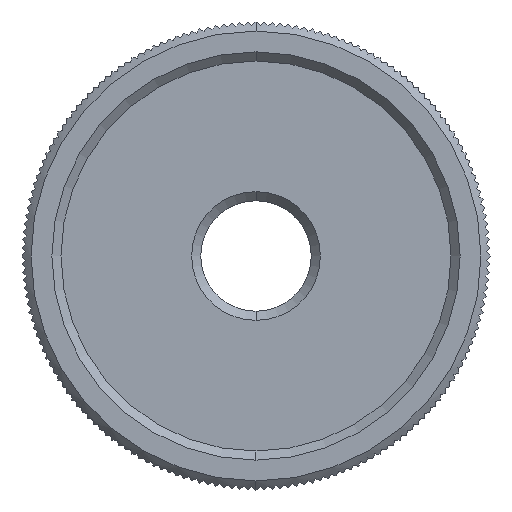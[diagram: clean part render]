
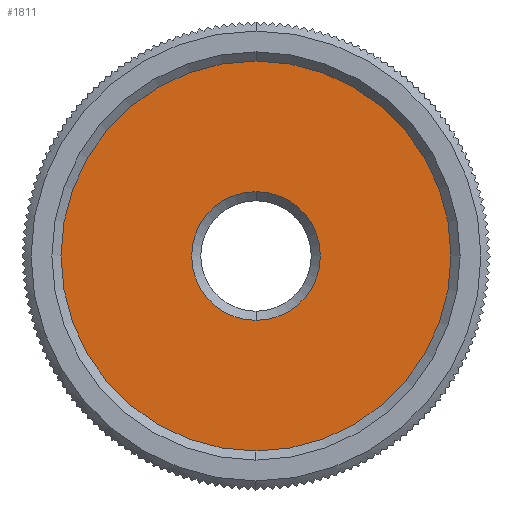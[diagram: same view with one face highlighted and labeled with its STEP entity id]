
A CAD part, left-side view. The second image highlights one B-rep face of the part: STEP entity #1811.
In plain terms, the highlighted planar face has unit normal (-1, 0, 0).
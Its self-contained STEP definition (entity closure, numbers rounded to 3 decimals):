
#28 = VERTEX_POINT ( 'NONE', #2038 ) ;
#29 = EDGE_CURVE ( 'NONE', #28, #30, #2032, .T. ) ;
#30 = VERTEX_POINT ( 'NONE', #2027 ) ;
#1811 = ADVANCED_FACE ( 'NONE', ( #4696, #4695 ), #4694, .T. ) ;
#1812 = EDGE_LOOP ( 'NONE', ( #1813, #1814 ) ) ;
#1813 = ORIENTED_EDGE ( 'NONE', *, *, #10948, .T. ) ;
#1814 = ORIENTED_EDGE ( 'NONE', *, *, #1815, .T. ) ;
#1815 = EDGE_CURVE ( 'NONE', #10561, #10942, #4691, .T. ) ;
#1816 = EDGE_LOOP ( 'NONE', ( #1817, #1871 ) ) ;
#1817 = ORIENTED_EDGE ( 'NONE', *, *, #1818, .T. ) ;
#1818 = EDGE_CURVE ( 'NONE', #30, #28, #4749, .T. ) ;
#1871 = ORIENTED_EDGE ( 'NONE', *, *, #29, .T. ) ;
#2027 = CARTESIAN_POINT ( 'NONE',  ( -6., 0., 15. ) ) ;
#2028 = DIRECTION ( 'NONE',  ( 0., 0., 1. ) ) ;
#2029 = DIRECTION ( 'NONE',  ( -1., 0., 0. ) ) ;
#2030 = CARTESIAN_POINT ( 'NONE',  ( -6., 0., 0. ) ) ;
#2031 = AXIS2_PLACEMENT_3D ( 'NONE', #2030, #2029, #2028 ) ;
#2032 = CIRCLE ( 'NONE', #2031, 15. ) ;
#2038 = CARTESIAN_POINT ( 'NONE',  ( -6., 0., -15. ) ) ;
#4684 = CARTESIAN_POINT ( 'NONE',  ( -6., 0., 0. ) ) ;
#4685 = DIRECTION ( 'NONE',  ( 0., 0., 1. ) ) ;
#4686 = DIRECTION ( 'NONE',  ( 1., 0., 0. ) ) ;
#4687 = CARTESIAN_POINT ( 'NONE',  ( -6., 0., 0. ) ) ;
#4688 = AXIS2_PLACEMENT_3D ( 'NONE', #4687, #4686, #4685 ) ;
#4689 = DIRECTION ( 'NONE',  ( 0., 0., 1. ) ) ;
#4690 = DIRECTION ( 'NONE',  ( -1., 0., 0. ) ) ;
#4691 = CIRCLE ( 'NONE', #4688, 4.95 ) ;
#4692 = CARTESIAN_POINT ( 'NONE',  ( -6., 0., 0. ) ) ;
#4693 = AXIS2_PLACEMENT_3D ( 'NONE', #4692, #4690, #4689 ) ;
#4694 = PLANE ( 'NONE',  #4693 ) ;
#4695 = FACE_OUTER_BOUND ( 'NONE', #1816, .T. ) ;
#4696 = FACE_BOUND ( 'NONE', #1812, .T. ) ;
#4746 = DIRECTION ( 'NONE',  ( 0., 0., 1. ) ) ;
#4747 = DIRECTION ( 'NONE',  ( -1., 0., 0. ) ) ;
#4748 = AXIS2_PLACEMENT_3D ( 'NONE', #4684, #4747, #4746 ) ;
#4749 = CIRCLE ( 'NONE', #4748, 15. ) ;
#5464 = CARTESIAN_POINT ( 'NONE',  ( -6., 0., -4.95 ) ) ;
#6166 = CARTESIAN_POINT ( 'NONE',  ( -6., 0., 4.95 ) ) ;
#6211 = DIRECTION ( 'NONE',  ( 0., 0., 1. ) ) ;
#6212 = DIRECTION ( 'NONE',  ( 1., 0., 0. ) ) ;
#6213 = CARTESIAN_POINT ( 'NONE',  ( -6., 0., 0. ) ) ;
#6214 = AXIS2_PLACEMENT_3D ( 'NONE', #6213, #6212, #6211 ) ;
#6215 = CIRCLE ( 'NONE', #6214, 4.95 ) ;
#10561 = VERTEX_POINT ( 'NONE', #5464 ) ;
#10942 = VERTEX_POINT ( 'NONE', #6166 ) ;
#10948 = EDGE_CURVE ( 'NONE', #10942, #10561, #6215, .T. ) ;
